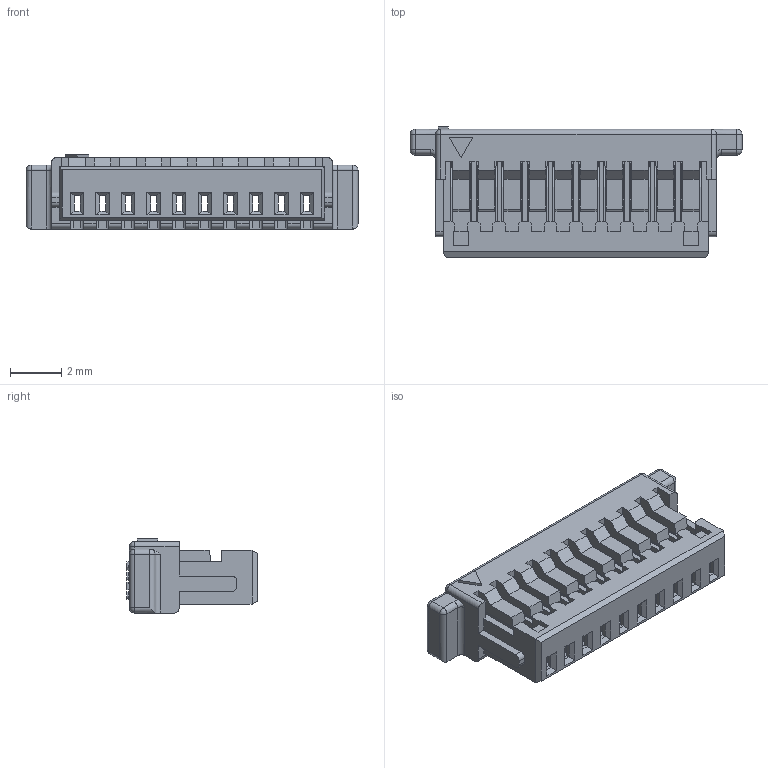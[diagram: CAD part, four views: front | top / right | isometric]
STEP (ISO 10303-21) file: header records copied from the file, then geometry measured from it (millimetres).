
FILE_DESCRIPTION((''),'2;1');
FILE_NAME('S-50233-010HXXX-XXX','2010-11-22T',('ouchwu'),(''),'PRO/ENGINEER BY PARAMETRIC TECHNOLOGY CORPORATION, 2007450','PRO/ENGINEER BY PARAMETRIC TECHNOLOGY CORPORATION, 2007450','');
FILE_SCHEMA(('CONFIG_CONTROL_DESIGN'));
Length unit declared in the file: millimetre
Products named in the file (1): S-50233-010HXXX-XXX
Bounding box: 13 x 5.1 x 2.9 mm (x, y, z)
Volume: 68 mm3; surface area: 437.2 mm2
Topology: 1 solids, 1 shells, 737 faces, 2089 edges, 1342 vertices
Faces by surface type: plane 672, cylinder 55, sphere 8, torus 2
Entity records: 23405 total; most frequent: CARTESIAN_POINT 4209, ORIENTED_EDGE 4162, DIRECTION 3653, EDGE_CURVE 2081, VECTOR 1969, LINE 1969, VERTEX_POINT 1342, AXIS2_PLACEMENT_3D 842
